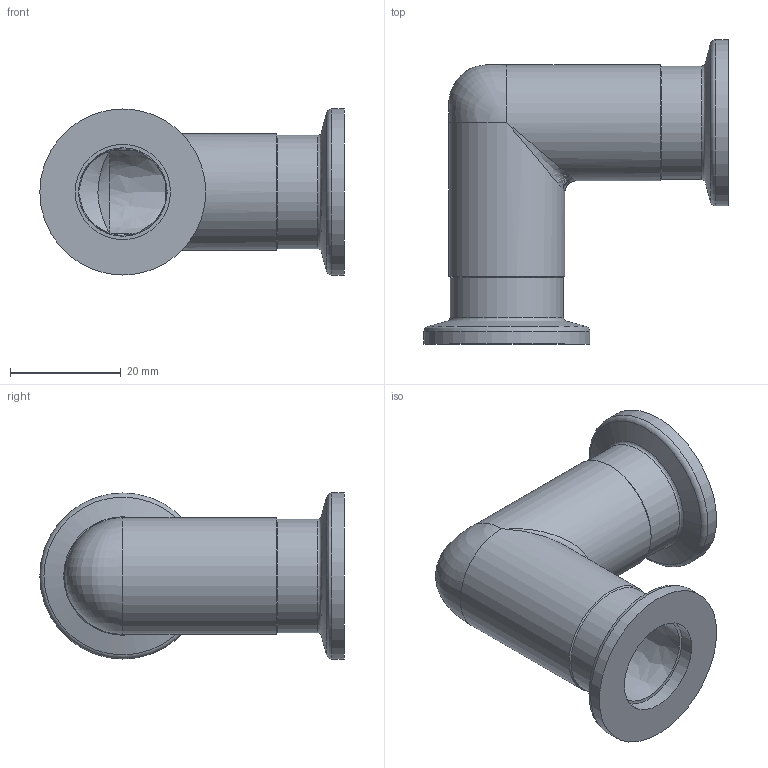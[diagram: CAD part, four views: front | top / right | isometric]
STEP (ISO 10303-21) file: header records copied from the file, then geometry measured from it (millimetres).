
FILE_DESCRIPTION((''),'2;1');
FILE_NAME('W:\M18436.stp','2006-08-30T11:34:22',('KAA'),(''),'Autodesk Inventor 10','Autodesk Inventor 10','');
FILE_SCHEMA(('CONFIG_CONTROL_DESIGN'));
Length unit declared in the file: millimetre
Products named in the file (1): M211-252
Bounding box: 55 x 55 x 30 mm (x, y, z)
Volume: 13775 mm3; surface area: 10918.4 mm2
Topology: 1 solids, 1 shells, 34 faces, 70 edges, 36 vertices
Faces by surface type: bspline 16, cylinder 8, cone 4, plane 4, torus 2
Full cylindrical faces by diameter (mm): 17.2 x2, 20.5 x2, 21 x2, 30 x2
Entity records: 1589 total; most frequent: CARTESIAN_POINT 942, DIRECTION 116, ORIENTED_EDGE 88, AXIS2_PLACEMENT_3D 58, EDGE_LOOP 56, EDGE_CURVE 44, FACE_OUTER_BOUND 34, ADVANCED_FACE 34
